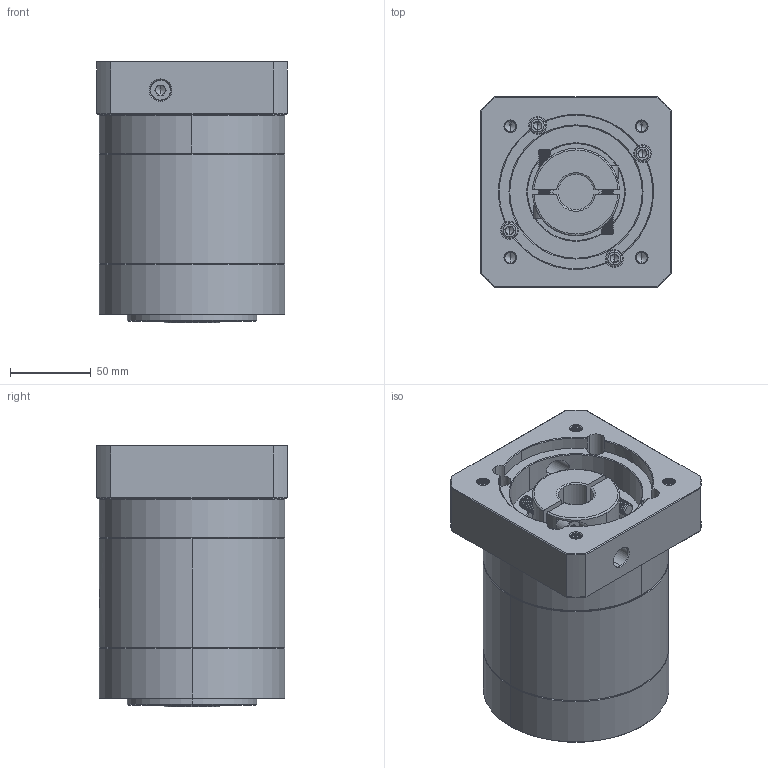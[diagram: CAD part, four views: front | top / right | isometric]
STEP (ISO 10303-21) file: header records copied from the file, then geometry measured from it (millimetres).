
FILE_DESCRIPTION (( 'STEP AP214' ), '1' );
FILE_NAME ('ZE120A-K25-L2-P2-22-95-115-M8.step', '2023-08-28T08:42:25', ( '' ), ( '' ), 'SwSTEP 2.0', 'SolidWorks 2016', '' );
FILE_SCHEMA (( 'AUTOMOTIVE_DESIGN' ));
Length unit declared in the file: millimetre
Products named in the file (1): ZE120A-K25-L2-P2-22-95-115-M8
Bounding box: 118 x 118 x 162 mm (x, y, z)
Volume: 1553475.7 mm3; surface area: 163436.6 mm2
Topology: 6 solids, 6 shells, 2262 faces, 6057 edges, 3895 vertices
Faces by surface type: plane 1006, cylinder 494, bspline 442, cone 320
Entity records: 129362 total; most frequent: CARTESIAN_POINT 54077, ORIENTED_EDGE 12042, DIRECTION 8492, EDGE_CURVE 6021, VERTEX_POINT 3895, VECTOR 3100, LINE 3100, AXIS2_PLACEMENT_3D 2696
